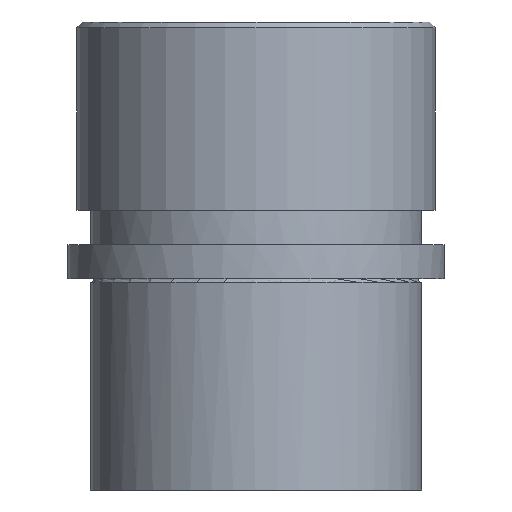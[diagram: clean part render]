
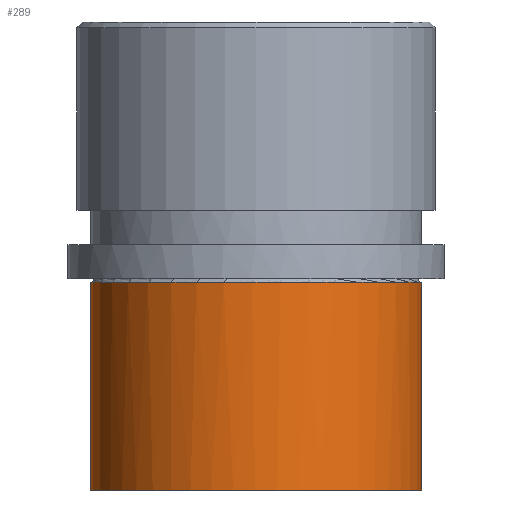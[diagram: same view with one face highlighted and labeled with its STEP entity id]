
A CAD part, front view. The second image highlights one B-rep face of the part: STEP entity #289.
In plain terms, the highlighted cylindrical face has radius 29 mm (diameter 58 mm), a partial arc.
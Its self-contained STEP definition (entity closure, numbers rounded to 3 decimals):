
#109=CARTESIAN_POINT('Control Point',(-29.,0.,-37.)) ;
#110=CARTESIAN_POINT('Control Point',(-29.,-2.638,-37.)) ;
#111=CARTESIAN_POINT('Control Point',(-28.7,-5.276,-37.)) ;
#112=CARTESIAN_POINT('Control Point',(-28.1,-7.869,-37.)) ;
#113=CARTESIAN_POINT('Control Point',(-26.321,-12.873,-37.)) ;
#114=CARTESIAN_POINT('Control Point',(-23.464,-17.349,-37.)) ;
#115=CARTESIAN_POINT('Control Point',(-21.786,-19.414,-37.)) ;
#116=CARTESIAN_POINT('Control Point',(-17.989,-23.127,-37.)) ;
#117=CARTESIAN_POINT('Control Point',(-13.456,-25.893,-37.)) ;
#118=CARTESIAN_POINT('Control Point',(-11.041,-27.012,-37.)) ;
#119=CARTESIAN_POINT('Control Point',(-6.,-28.679,-37.)) ;
#120=CARTESIAN_POINT('Control Point',(-0.712,-29.172,-37.)) ;
#121=CARTESIAN_POINT('Control Point',(1.949,-29.116,-37.)) ;
#122=CARTESIAN_POINT('Control Point',(7.21,-28.399,-37.)) ;
#123=CARTESIAN_POINT('Control Point',(12.177,-26.519,-37.)) ;
#124=CARTESIAN_POINT('Control Point',(14.542,-25.299,-37.)) ;
#125=CARTESIAN_POINT('Control Point',(18.954,-22.344,-37.)) ;
#126=CARTESIAN_POINT('Control Point',(22.589,-18.473,-37.)) ;
#127=CARTESIAN_POINT('Control Point',(24.178,-16.338,-37.)) ;
#128=CARTESIAN_POINT('Control Point',(26.719,-11.959,-37.)) ;
#129=CARTESIAN_POINT('Control Point',(28.26,-7.143,-37.)) ;
#130=CARTESIAN_POINT('Control Point',(28.753,-4.784,-37.)) ;
#131=CARTESIAN_POINT('Control Point',(29.,-2.392,-37.)) ;
#132=CARTESIAN_POINT('Control Point',(29.,0.,-37.)) ;
#133=CARTESIAN_POINT('Vertex',(-29.,0.,-37.)) ;
#135=CARTESIAN_POINT('Vertex',(29.,0.,-37.)) ;
#247=CARTESIAN_POINT('Axis2P3D Location',(0.,0.,45.)) ;
#252=CARTESIAN_POINT('Line Origine',(29.,0.,45.)) ;
#256=CARTESIAN_POINT('Vertex',(29.,0.,-0.6)) ;
#260=CARTESIAN_POINT('Control Point',(-29.,0.,-0.6)) ;
#261=CARTESIAN_POINT('Control Point',(-29.,-4.555,-0.6)) ;
#262=CARTESIAN_POINT('Control Point',(-28.106,-9.111,-0.6)) ;
#263=CARTESIAN_POINT('Control Point',(-26.316,-13.431,-0.6)) ;
#264=CARTESIAN_POINT('Control Point',(-21.139,-21.139,-0.6)) ;
#265=CARTESIAN_POINT('Control Point',(-13.431,-26.316,-0.6)) ;
#266=CARTESIAN_POINT('Control Point',(-9.111,-28.106,-0.6)) ;
#267=CARTESIAN_POINT('Control Point',(0.,-29.894,-0.6)) ;
#268=CARTESIAN_POINT('Control Point',(9.111,-28.106,-0.6)) ;
#269=CARTESIAN_POINT('Control Point',(13.431,-26.316,-0.6)) ;
#270=CARTESIAN_POINT('Control Point',(21.139,-21.139,-0.6)) ;
#271=CARTESIAN_POINT('Control Point',(26.316,-13.431,-0.6)) ;
#272=CARTESIAN_POINT('Control Point',(28.106,-9.111,-0.6)) ;
#273=CARTESIAN_POINT('Control Point',(29.,-4.555,-0.6)) ;
#274=CARTESIAN_POINT('Control Point',(29.,0.,-0.6)) ;
#275=CARTESIAN_POINT('Vertex',(-29.,0.,-0.6)) ;
#278=CARTESIAN_POINT('Line Origine',(-29.,0.,45.)) ;
#248=DIRECTION('Axis2P3D Direction',(0.,0.,-1.)) ;
#249=DIRECTION('Axis2P3D XDirection',(1.,0.,0.)) ;
#253=DIRECTION('Vector Direction',(0.,0.,-1.)) ;
#279=DIRECTION('Vector Direction',(0.,0.,-1.)) ;
#250=AXIS2_PLACEMENT_3D('Cylinder Axis2P3D',#247,#248,#249) ;
#284=ORIENTED_EDGE('',*,*,#258,.T.) ;
#285=ORIENTED_EDGE('',*,*,#277,.F.) ;
#286=ORIENTED_EDGE('',*,*,#282,.T.) ;
#287=ORIENTED_EDGE('',*,*,#137,.T.) ;
#254=VECTOR('Line Direction',#253,1.) ;
#280=VECTOR('Line Direction',#279,1.) ;
#289=ADVANCED_FACE('735-40',(#288),#251,.T.) ;
#108=B_SPLINE_CURVE_WITH_KNOTS('',5,(#109,#110,#111,#112,#113,#114,#115,#116,#117,#118,#119,#120,#121,#122,#123,#124,#125,#126,#127,#128,#129,#130,#131,#132),.UNSPECIFIED.,.F.,.U.,(6,3,3,3,3,3,3,6),(0.,18.655,37.309,55.964,74.618,93.273,111.928,128.843),.UNSPECIFIED.) ;
#259=B_SPLINE_CURVE_WITH_KNOTS('',5,(#260,#261,#262,#263,#264,#265,#266,#267,#268,#269,#270,#271,#272,#273,#274),.UNSPECIFIED.,.F.,.U.,(6,3,3,3,6),(-45.553,-22.777,0.,22.777,45.553),.UNSPECIFIED.) ;
#251=CYLINDRICAL_SURFACE('generated cylinder',#250,29.) ;
#137=EDGE_CURVE('',#134,#136,#108,.T.) ;
#258=EDGE_CURVE('',#136,#257,#255,.F.) ;
#277=EDGE_CURVE('',#276,#257,#259,.T.) ;
#282=EDGE_CURVE('',#276,#134,#281,.T.) ;
#283=EDGE_LOOP('',(#284,#285,#286,#287)) ;
#288=FACE_OUTER_BOUND('',#283,.T.) ;
#255=LINE('Line',#252,#254) ;
#281=LINE('Line',#278,#280) ;
#134=VERTEX_POINT('',#133) ;
#136=VERTEX_POINT('',#135) ;
#257=VERTEX_POINT('',#256) ;
#276=VERTEX_POINT('',#275) ;
